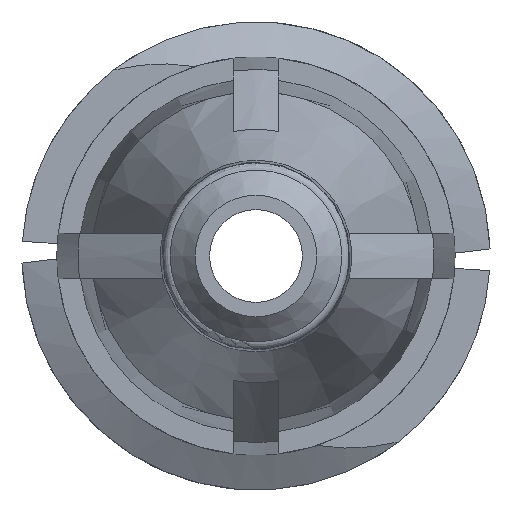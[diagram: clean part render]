
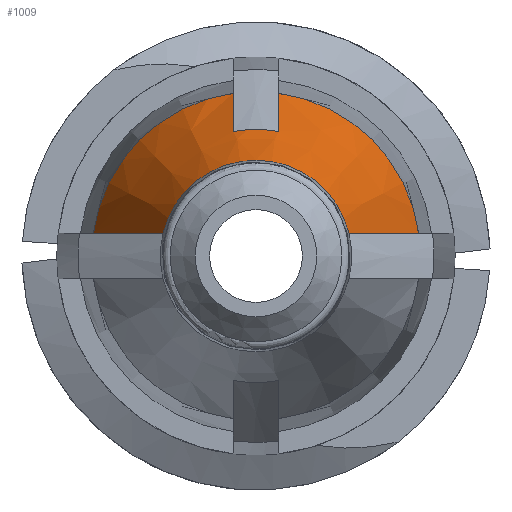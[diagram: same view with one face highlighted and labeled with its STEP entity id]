
A CAD part, front view. The second image highlights one B-rep face of the part: STEP entity #1009.
In plain terms, the highlighted conical face has half-angle 20 degrees and reference radius 2.745 mm.
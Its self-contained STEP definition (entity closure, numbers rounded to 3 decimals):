
#60 = ORIENTED_EDGE ( 'NONE', *, *, #184, .T. ) ;
#86 = AXIS2_PLACEMENT_3D ( 'NONE', #1474, #1673, #1325 ) ;
#109 = CARTESIAN_POINT ( 'NONE',  ( -0.381, -10.312, 2.719 ) ) ;
#135 = CARTESIAN_POINT ( 'NONE',  ( 2.333, -11.362, 0.381 ) ) ;
#143 = CARTESIAN_POINT ( 'NONE',  ( 1.554, -13.458, 0.381 ) ) ;
#163 = CARTESIAN_POINT ( 'NONE',  ( -2.333, -11.362, 0.381 ) ) ;
#171 = CARTESIAN_POINT ( 'NONE',  ( 0., -10.312, 0. ) ) ;
#184 = EDGE_CURVE ( 'NONE', #1901, #1595, #1088, .T. ) ;
#189 = CARTESIAN_POINT ( 'NONE',  ( 0., -13.458, 0. ) ) ;
#283 = CIRCLE ( 'NONE', #1367, 2.745 ) ;
#286 = CIRCLE ( 'NONE', #86, 2.117 ) ;
#292 = DIRECTION ( 'NONE',  ( 1., 0., 0. ) ) ;
#323 = CARTESIAN_POINT ( 'NONE',  ( -2.719, -10.312, 0.381 ) ) ;
#324 = CARTESIAN_POINT ( 'NONE',  ( -0.381, -12.038, 2.082 ) ) ;
#371 = EDGE_CURVE ( 'NONE', #372, #1691, #389, .T. ) ;
#372 = VERTEX_POINT ( 'NONE', #1243 ) ;
#375 = DIRECTION ( 'NONE',  ( 1., 0., 0. ) ) ;
#388 = CARTESIAN_POINT ( 'NONE',  ( -0.381, -12.038, 2.082 ) ) ;
#389 = CIRCLE ( 'NONE', #1525, 2.745 ) ;
#409 = ORIENTED_EDGE ( 'NONE', *, *, #1621, .T. ) ;
#466 = ORIENTED_EDGE ( 'NONE', *, *, #1592, .T. ) ;
#510 = CARTESIAN_POINT ( 'NONE',  ( -2.719, -10.312, 0.381 ) ) ;
#529 = VERTEX_POINT ( 'NONE', #109 ) ;
#676 = DIRECTION ( 'NONE',  ( 0., 1., 0. ) ) ;
#686 = CARTESIAN_POINT ( 'NONE',  ( 0.381, -12.038, 2.082 ) ) ;
#728 = VERTEX_POINT ( 'NONE', #324 ) ;
#801 = DIRECTION ( 'NONE',  ( 1., 0., 0. ) ) ;
#809 = EDGE_CURVE ( 'NONE', #1691, #2043, #1007, .T. ) ;
#819 = B_SPLINE_CURVE_WITH_KNOTS ( 'NONE', 3,
 ( #388, #1834, #1499, #1050 ),
 .UNSPECIFIED., .F., .F.,
 ( 4, 4 ),
 ( 0.002, 0.004 ),
 .UNSPECIFIED. ) ;
#831 = CIRCLE ( 'NONE', #1915, 1.6 ) ;
#842 = DIRECTION ( 'NONE',  ( 0., 1., 0. ) ) ;
#875 = ORIENTED_EDGE ( 'NONE', *, *, #1244, .F. ) ;
#897 = CONICAL_SURFACE ( 'NONE', #2077, 2.745, 0.349 ) ;
#923 = CARTESIAN_POINT ( 'NONE',  ( 0., -10.312, 0. ) ) ;
#939 = CARTESIAN_POINT ( 'NONE',  ( 2.719, -10.312, 0.381 ) ) ;
#1007 = B_SPLINE_CURVE_WITH_KNOTS ( 'NONE', 3,
 ( #1268, #135, #1258, #143 ),
 .UNSPECIFIED., .F., .F.,
 ( 4, 4 ),
 ( 0.003, 0.007 ),
 .UNSPECIFIED. ) ;
#1009 = ADVANCED_FACE ( 'NONE', ( #1614 ), #897, .T. ) ;
#1014 = CARTESIAN_POINT ( 'NONE',  ( 0.381, -11.463, 2.295 ) ) ;
#1024 = CARTESIAN_POINT ( 'NONE',  ( 0.381, -10.312, 2.719 ) ) ;
#1050 = CARTESIAN_POINT ( 'NONE',  ( -0.381, -10.312, 2.719 ) ) ;
#1073 = EDGE_CURVE ( 'NONE', #728, #529, #819, .T. ) ;
#1088 = B_SPLINE_CURVE_WITH_KNOTS ( 'NONE', 3,
 ( #510, #163, #1156, #1332 ),
 .UNSPECIFIED., .F., .F.,
 ( 4, 4 ),
 ( 0.003, 0.007 ),
 .UNSPECIFIED. ) ;
#1098 = VERTEX_POINT ( 'NONE', #686 ) ;
#1156 = CARTESIAN_POINT ( 'NONE',  ( -1.947, -12.411, 0.381 ) ) ;
#1169 = CARTESIAN_POINT ( 'NONE',  ( -1.554, -13.458, 0.381 ) ) ;
#1214 = DIRECTION ( 'NONE',  ( 0., 1., 0. ) ) ;
#1243 = CARTESIAN_POINT ( 'NONE',  ( 0.381, -10.312, 2.719 ) ) ;
#1244 = EDGE_CURVE ( 'NONE', #1901, #529, #283, .T. ) ;
#1258 = CARTESIAN_POINT ( 'NONE',  ( 1.947, -12.411, 0.381 ) ) ;
#1268 = CARTESIAN_POINT ( 'NONE',  ( 2.719, -10.312, 0.381 ) ) ;
#1325 = DIRECTION ( 'NONE',  ( -1., 0., 0. ) ) ;
#1326 = CARTESIAN_POINT ( 'NONE',  ( 0., -10.312, 0. ) ) ;
#1332 = CARTESIAN_POINT ( 'NONE',  ( -1.554, -13.458, 0.381 ) ) ;
#1334 = DIRECTION ( 'NONE',  ( 1., 0., 0. ) ) ;
#1367 = AXIS2_PLACEMENT_3D ( 'NONE', #1326, #1214, #375 ) ;
#1415 = ORIENTED_EDGE ( 'NONE', *, *, #809, .F. ) ;
#1474 = CARTESIAN_POINT ( 'NONE',  ( 0., -12.038, 0. ) ) ;
#1499 = CARTESIAN_POINT ( 'NONE',  ( -0.381, -10.888, 2.507 ) ) ;
#1502 = B_SPLINE_CURVE_WITH_KNOTS ( 'NONE', 3,
 ( #1024, #1961, #1014, #1651 ),
 .UNSPECIFIED., .F., .F.,
 ( 4, 4 ),
 ( 0.003, 0.005 ),
 .UNSPECIFIED. ) ;
#1525 = AXIS2_PLACEMENT_3D ( 'NONE', #923, #1588, #292 ) ;
#1563 = EDGE_LOOP ( 'NONE', ( #1415, #1913, #409, #466, #1892, #875, #60, #1860 ) ) ;
#1579 = EDGE_CURVE ( 'NONE', #1595, #2043, #831, .T. ) ;
#1588 = DIRECTION ( 'NONE',  ( 0., 1., 0. ) ) ;
#1592 = EDGE_CURVE ( 'NONE', #1098, #728, #286, .T. ) ;
#1595 = VERTEX_POINT ( 'NONE', #1169 ) ;
#1614 = FACE_OUTER_BOUND ( 'NONE', #1563, .T. ) ;
#1617 = CARTESIAN_POINT ( 'NONE',  ( 1.554, -13.458, 0.381 ) ) ;
#1621 = EDGE_CURVE ( 'NONE', #372, #1098, #1502, .T. ) ;
#1651 = CARTESIAN_POINT ( 'NONE',  ( 0.381, -12.038, 2.082 ) ) ;
#1673 = DIRECTION ( 'NONE',  ( 0., -1., 0. ) ) ;
#1691 = VERTEX_POINT ( 'NONE', #939 ) ;
#1834 = CARTESIAN_POINT ( 'NONE',  ( -0.381, -11.463, 2.295 ) ) ;
#1860 = ORIENTED_EDGE ( 'NONE', *, *, #1579, .T. ) ;
#1892 = ORIENTED_EDGE ( 'NONE', *, *, #1073, .T. ) ;
#1901 = VERTEX_POINT ( 'NONE', #323 ) ;
#1913 = ORIENTED_EDGE ( 'NONE', *, *, #371, .F. ) ;
#1915 = AXIS2_PLACEMENT_3D ( 'NONE', #189, #842, #1334 ) ;
#1961 = CARTESIAN_POINT ( 'NONE',  ( 0.381, -10.888, 2.507 ) ) ;
#2043 = VERTEX_POINT ( 'NONE', #1617 ) ;
#2077 = AXIS2_PLACEMENT_3D ( 'NONE', #171, #676, #801 ) ;
